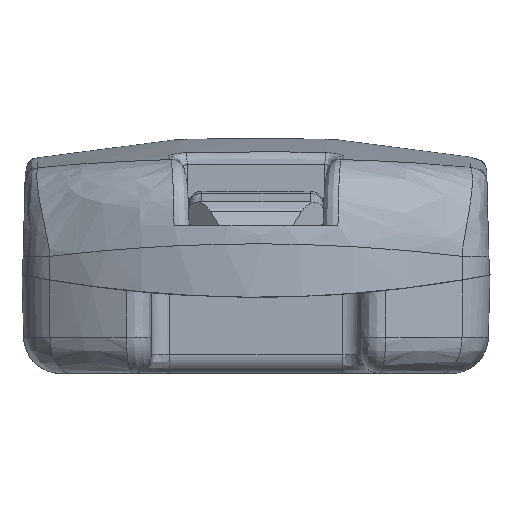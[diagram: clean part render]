
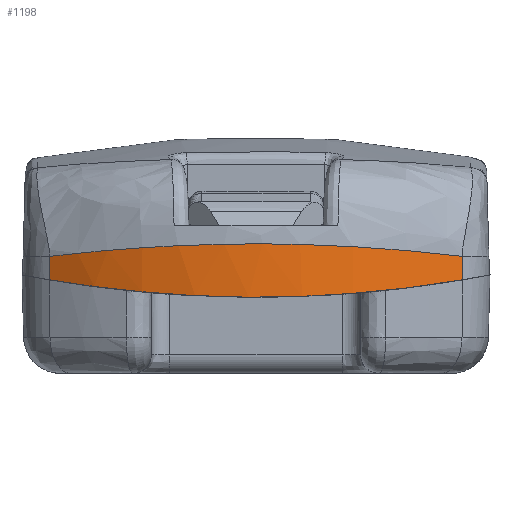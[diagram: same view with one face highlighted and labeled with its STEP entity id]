
A CAD part, left-side view. The second image highlights one B-rep face of the part: STEP entity #1198.
In plain terms, the highlighted free-form (B-spline) face has degree [2, 1] with [3, 2] control points.
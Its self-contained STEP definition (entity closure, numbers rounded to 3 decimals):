
#716=(
BOUNDED_SURFACE()
B_SPLINE_SURFACE(2,1,((#9986,#9987),(#9988,#9989),(#9990,#9991)),
 .UNSPECIFIED.,.F.,.F.,.F.)
B_SPLINE_SURFACE_WITH_KNOTS((3,3),(2,2),(0.,1.),(0.,1.),.UNSPECIFIED.)
GEOMETRIC_REPRESENTATION_ITEM()
RATIONAL_B_SPLINE_SURFACE(((1.,1.),(0.828,0.828),
(1.,1.)))
REPRESENTATION_ITEM('')
SURFACE()
);
#921=(
BOUNDED_CURVE()
B_SPLINE_CURVE(1,(#9974,#9975),.UNSPECIFIED.,.F.,.F.)
B_SPLINE_CURVE_WITH_KNOTS((2,2),(0.,1.),.UNSPECIFIED.)
CURVE()
GEOMETRIC_REPRESENTATION_ITEM()
RATIONAL_B_SPLINE_CURVE((1.,1.))
REPRESENTATION_ITEM('')
);
#922=(
BOUNDED_CURVE()
B_SPLINE_CURVE(1,(#9977,#9978),.UNSPECIFIED.,.F.,.F.)
B_SPLINE_CURVE_WITH_KNOTS((2,2),(0.,1.),.UNSPECIFIED.)
CURVE()
GEOMETRIC_REPRESENTATION_ITEM()
RATIONAL_B_SPLINE_CURVE((1.,1.))
REPRESENTATION_ITEM('')
);
#1198=ADVANCED_FACE('',(#1567),#716,.T.);
#1567=FACE_OUTER_BOUND('',#1897,.T.);
#1897=EDGE_LOOP('',(#2564,#2565,#2566,#2567));
#2564=ORIENTED_EDGE('',*,*,#4501,.F.);
#2565=ORIENTED_EDGE('',*,*,#4494,.T.);
#2566=ORIENTED_EDGE('',*,*,#4502,.F.);
#2567=ORIENTED_EDGE('',*,*,#4503,.F.);
#3876=VERTEX_POINT('',#7408);
#3925=VERTEX_POINT('',#9367);
#3929=VERTEX_POINT('',#9976);
#3930=VERTEX_POINT('',#9979);
#4494=EDGE_CURVE('',#3925,#3876,#5246,.T.);
#4501=EDGE_CURVE('',#3925,#3929,#921,.T.);
#4502=EDGE_CURVE('',#3930,#3876,#922,.T.);
#4503=EDGE_CURVE('',#3929,#3930,#5251,.T.);
#5246=B_SPLINE_CURVE_WITH_KNOTS('',3,(#9353,#9354,#9355,#9356,#9357,#9358,
#9359,#9360,#9361,#9362,#9363,#9364,#9365,#9366),.UNSPECIFIED.,.F.,.F.,
(4,2,2,2,2,2,4),(0.,0.125,0.25,0.5,0.75,0.875,1.),.UNSPECIFIED.);
#5251=B_SPLINE_CURVE_WITH_KNOTS('',3,(#9980,#9981,#9982,#9983,#9984,#9985),
 .UNSPECIFIED.,.F.,.F.,(4,2,4),(0.,0.5,1.),.UNSPECIFIED.);
#7408=CARTESIAN_POINT('',(-24.907,16.834,1.511));
#9353=CARTESIAN_POINT('',(-24.907,-16.835,1.51));
#9354=CARTESIAN_POINT('',(-25.684,-15.679,1.624));
#9355=CARTESIAN_POINT('',(-26.384,-14.468,1.784));
#9356=CARTESIAN_POINT('',(-27.641,-11.874,2.031));
#9357=CARTESIAN_POINT('',(-28.19,-10.504,2.141));
#9358=CARTESIAN_POINT('',(-29.541,-6.216,2.421));
#9359=CARTESIAN_POINT('',(-30.036,-3.113,2.536));
#9360=CARTESIAN_POINT('',(-30.036,3.112,2.534));
#9361=CARTESIAN_POINT('',(-29.542,6.213,2.416));
#9362=CARTESIAN_POINT('',(-28.191,10.502,2.139));
#9363=CARTESIAN_POINT('',(-27.641,11.874,2.029));
#9364=CARTESIAN_POINT('',(-26.384,14.468,1.784));
#9365=CARTESIAN_POINT('',(-25.684,15.68,1.626));
#9366=CARTESIAN_POINT('',(-24.907,16.835,1.51));
#9367=CARTESIAN_POINT('',(-24.907,-16.835,1.51));
#9974=CARTESIAN_POINT('',(-24.907,-16.835,1.51));
#9975=CARTESIAN_POINT('',(-24.948,-16.863,-0.396));
#9976=CARTESIAN_POINT('',(-24.948,-16.863,-0.396));
#9977=CARTESIAN_POINT('',(-24.948,16.863,-0.396));
#9978=CARTESIAN_POINT('',(-24.907,16.835,1.51));
#9979=CARTESIAN_POINT('',(-24.948,16.863,-0.396));
#9980=CARTESIAN_POINT('',(-24.948,-16.863,-0.396));
#9981=CARTESIAN_POINT('',(-28.162,-12.147,-1.199));
#9982=CARTESIAN_POINT('',(-30.066,-6.408,-1.796));
#9983=CARTESIAN_POINT('',(-30.228,5.598,-1.844));
#9984=CARTESIAN_POINT('',(-28.401,11.796,-1.259));
#9985=CARTESIAN_POINT('',(-24.948,16.863,-0.396));
#9986=CARTESIAN_POINT('',(-24.979,16.884,-1.821));
#9987=CARTESIAN_POINT('',(-24.882,16.819,2.635));
#9988=CARTESIAN_POINT('',(-36.391,0.,-1.821));
#9989=CARTESIAN_POINT('',(-36.251,0.,2.635));
#9990=CARTESIAN_POINT('',(-24.979,-16.884,-1.821));
#9991=CARTESIAN_POINT('',(-24.882,-16.819,2.635));
